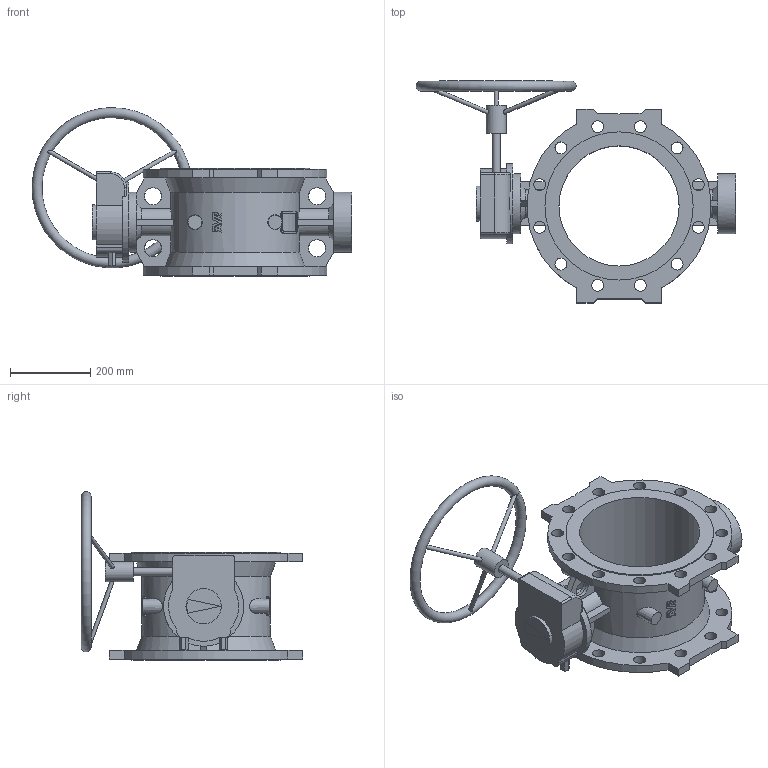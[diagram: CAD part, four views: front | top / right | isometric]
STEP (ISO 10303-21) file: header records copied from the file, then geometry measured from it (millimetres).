
FILE_DESCRIPTION (( 'STEP AP203' ), '1' );
FILE_NAME ('O_756_1_DN300_1XX00_AA0_step.step', '2016-03-04T11:36:34', ( 'Windows User' ), ( 'AVK' ), 'SwSTEP 2.0', 'SolidWorks 2012', '' );
FILE_SCHEMA (( 'CONFIG_CONTROL_DESIGN' ));
Length unit declared in the file: millimetre
Products named in the file (1): O_756_1_DN300_1XX00_AA0_step
Bounding box: 798.95 x 553.97 x 420.99 mm (x, y, z)
Volume: 12940793.1 mm3; surface area: 1341046.1 mm2
Topology: 1 solids, 1 shells, 370 faces, 1038 edges, 692 vertices
Faces by surface type: plane 186, bspline 86, cylinder 71, cone 24, torus 3
Full cylindrical faces by diameter (mm): 10 x3, 20 x1, 30 x24, 50 x1, 88 x1, 150 x2, 200 x1, 300 x1, 370 x2
Entity records: 17449 total; most frequent: CARTESIAN_POINT 8693, ORIENTED_EDGE 1950, DIRECTION 1413, EDGE_CURVE 975, VERTEX_POINT 678, EDGE_LOOP 503, LINE 491, VECTOR 491
